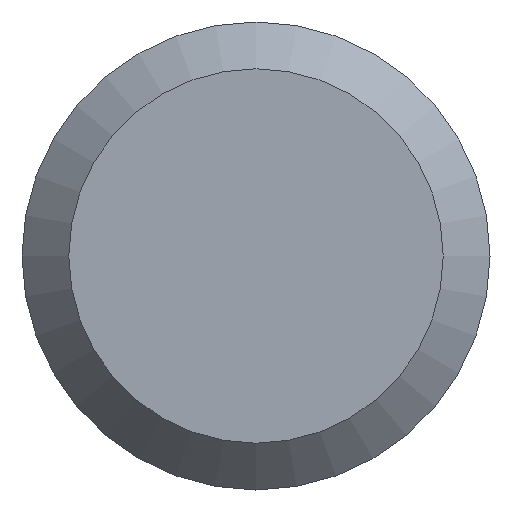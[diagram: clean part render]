
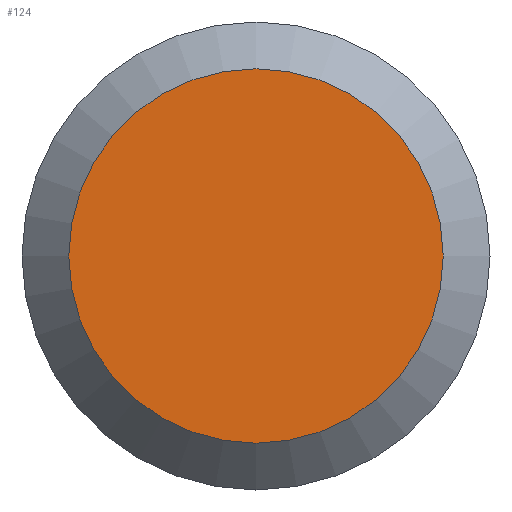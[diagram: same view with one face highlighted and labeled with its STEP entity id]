
A CAD part, left-side view. The second image highlights one B-rep face of the part: STEP entity #124.
In plain terms, the highlighted planar face has unit normal (-1, 0, 0).
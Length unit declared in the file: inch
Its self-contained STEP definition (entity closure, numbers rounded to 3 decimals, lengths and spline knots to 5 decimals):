
#1 = CARTESIAN_POINT ( 'NONE',  ( 0., 0., -0.0464 ) ) ;
#10 = AXIS2_PLACEMENT_3D ( 'NONE', #19, #18, #16 ) ;
#16 = DIRECTION ( 'NONE',  ( 0., 0., -1. ) ) ;
#18 = DIRECTION ( 'NONE',  ( -1., 0., 0. ) ) ;
#19 = CARTESIAN_POINT ( 'NONE',  ( 0., 0., 0. ) ) ;
#60 = CARTESIAN_POINT ( 'NONE',  ( 0., 0.058, 0. ) ) ;
#103 = DIRECTION ( 'NONE',  ( 0., 0., -1. ) ) ;
#105 = DIRECTION ( 'NONE',  ( 1., 0., 0. ) ) ;
#124 = ADVANCED_FACE ( 'NONE', ( #153 ), #151, .F. ) ;
#130 = EDGE_LOOP ( 'NONE', ( #233 ) ) ;
#132 = AXIS2_PLACEMENT_3D ( 'NONE', #60, #105, #103 ) ;
#151 = PLANE ( 'NONE',  #132 ) ;
#153 = FACE_OUTER_BOUND ( 'NONE', #130, .T. ) ;
#170 = VERTEX_POINT ( 'NONE', #1 ) ;
#177 = CIRCLE ( 'NONE', #10, 0.0464 ) ;
#231 = EDGE_CURVE ( 'NONE', #170, #170, #177, .T. ) ;
#233 = ORIENTED_EDGE ( 'NONE', *, *, #231, .T. ) ;
